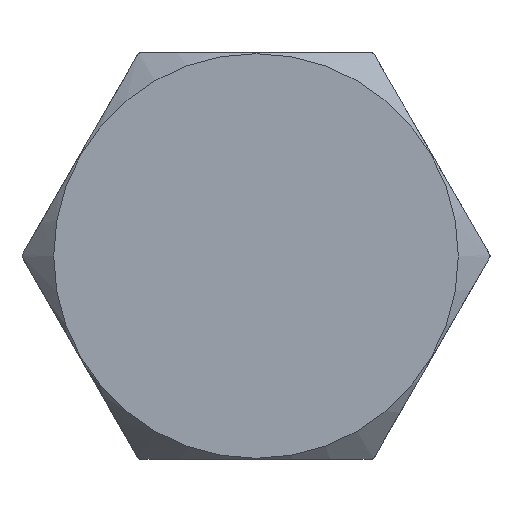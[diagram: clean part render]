
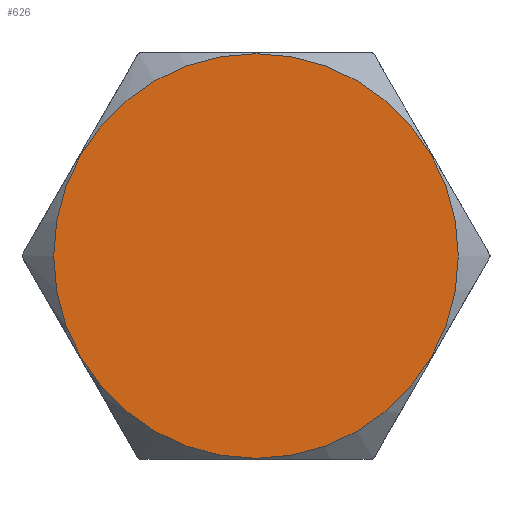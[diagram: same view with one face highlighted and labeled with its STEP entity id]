
A CAD part, front view. The second image highlights one B-rep face of the part: STEP entity #626.
In plain terms, the highlighted planar face has unit normal (0, -1, 0).
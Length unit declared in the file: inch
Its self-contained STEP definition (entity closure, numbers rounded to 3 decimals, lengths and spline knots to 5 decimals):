
#41=PLANE('',#720);
#91=FACE_OUTER_BOUND('',#130,.T.);
#130=EDGE_LOOP('',(#580));
#236=CIRCLE('',#717,0.498);
#298=VERTEX_POINT('',#1222);
#390=EDGE_CURVE('',#298,#298,#236,.T.);
#580=ORIENTED_EDGE('',*,*,#390,.F.);
#626=ADVANCED_FACE('',(#91),#41,.T.);
#717=AXIS2_PLACEMENT_3D('',#1223,#902,#903);
#720=AXIS2_PLACEMENT_3D('',#1227,#909,#910);
#902=DIRECTION('center_axis',(0.,1.,0.));
#903=DIRECTION('ref_axis',(0.,0.,1.));
#909=DIRECTION('center_axis',(0.,-1.,0.));
#910=DIRECTION('ref_axis',(0.,0.,-1.));
#1222=CARTESIAN_POINT('',(0.,0.,-0.498));
#1223=CARTESIAN_POINT('Origin',(0.,0.,0.));
#1227=CARTESIAN_POINT('Origin',(0.,0.,0.));
